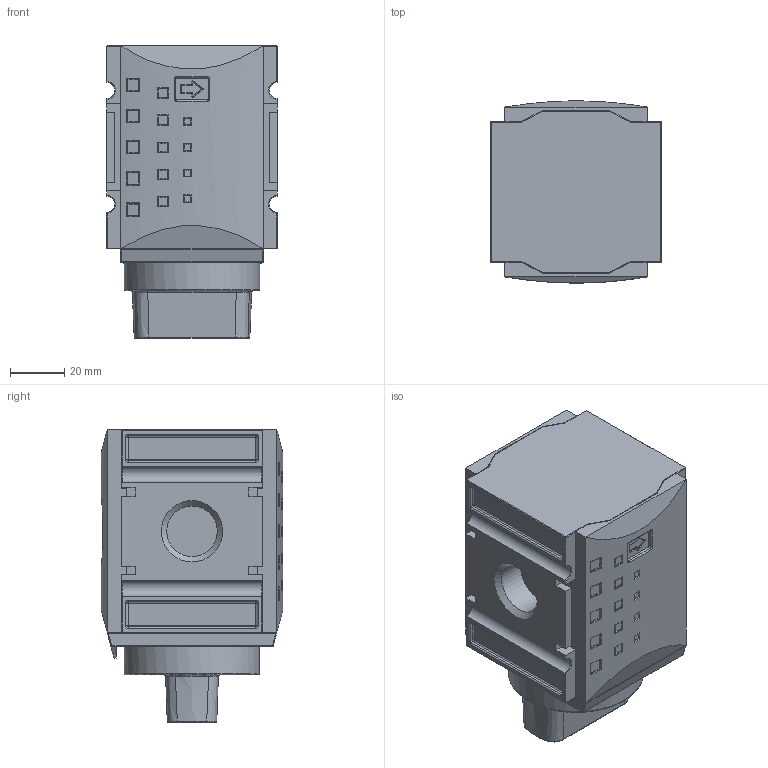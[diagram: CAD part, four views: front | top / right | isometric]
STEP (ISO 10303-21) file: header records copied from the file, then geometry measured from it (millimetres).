
FILE_DESCRIPTION((''),'2;1');
FILE_NAME('K:\ZEICHNG\Kunden Modelle\Airtec Schweden\BG2\KBAV-212.stp','2010-02-01T14:52:00',('DDruske'),(''),'Autodesk Inventor 2009','Autodesk Inventor 2009','');
FILE_SCHEMA(('AUTOMOTIVE_DESIGN { 1 0 10303 214 1 1 1 1 }'));
Length unit declared in the file: millimetre
Products named in the file (1): Bauteil5
Bounding box: 63 x 67.13 x 108 mm (x, y, z)
Volume: 292915.5 mm3; surface area: 54400.6 mm2
Topology: 1 solids, 2 shells, 1029 faces, 2678 edges, 1597 vertices
Faces by surface type: cylinder 353, plane 350, bspline 190, torus 99, sphere 24, cone 13
Full cylindrical faces by diameter (mm): 11.245 x1, 11.445 x1, 18.631 x1, 19 x2, 28 x1, 50 x1
Entity records: 39130 total; most frequent: CARTESIAN_POINT 13974, ORIENTED_EDGE 5192, DIRECTION 4801, EDGE_CURVE 2596, AXIS2_PLACEMENT_3D 1642, VERTEX_POINT 1592, VECTOR 1517, LINE 1517
